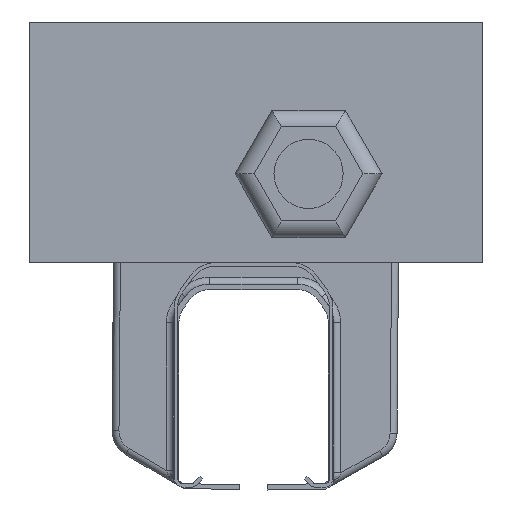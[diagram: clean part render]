
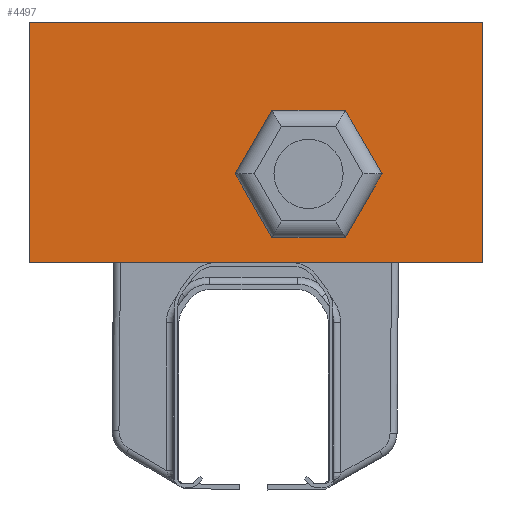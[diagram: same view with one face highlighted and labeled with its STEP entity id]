
A CAD part, front view. The second image highlights one B-rep face of the part: STEP entity #4497.
In plain terms, the highlighted planar face has unit normal (0, -1, 0).
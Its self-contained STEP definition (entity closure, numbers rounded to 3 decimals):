
#332=ORIENTED_EDGE('',*,*,#1296,.T.);
#333=ORIENTED_EDGE('',*,*,#1297,.T.);
#334=ORIENTED_EDGE('',*,*,#1298,.T.);
#335=ORIENTED_EDGE('',*,*,#1299,.T.);
#336=ORIENTED_EDGE('',*,*,#1300,.T.);
#337=ORIENTED_EDGE('',*,*,#1301,.T.);
#338=ORIENTED_EDGE('',*,*,#1280,.F.);
#339=ORIENTED_EDGE('',*,*,#1295,.F.);
#340=ORIENTED_EDGE('',*,*,#1292,.F.);
#341=ORIENTED_EDGE('',*,*,#1287,.F.);
#1280=EDGE_CURVE('',#1764,#1765,#2068,.T.);
#1287=EDGE_CURVE('',#1765,#1771,#2075,.T.);
#1292=EDGE_CURVE('',#1771,#1775,#2080,.T.);
#1295=EDGE_CURVE('',#1775,#1764,#2083,.T.);
#1296=EDGE_CURVE('',#1776,#1777,#2084,.T.);
#1297=EDGE_CURVE('',#1777,#1778,#2085,.T.);
#1298=EDGE_CURVE('',#1778,#1779,#2086,.T.);
#1299=EDGE_CURVE('',#1779,#1780,#2087,.T.);
#1300=EDGE_CURVE('',#1780,#1781,#2088,.T.);
#1301=EDGE_CURVE('',#1781,#1776,#2089,.T.);
#1764=VERTEX_POINT('',#6010);
#1765=VERTEX_POINT('',#6012);
#1771=VERTEX_POINT('',#6026);
#1775=VERTEX_POINT('',#6036);
#1776=VERTEX_POINT('',#6043);
#1777=VERTEX_POINT('',#6044);
#1778=VERTEX_POINT('',#6046);
#1779=VERTEX_POINT('',#6048);
#1780=VERTEX_POINT('',#6050);
#1781=VERTEX_POINT('',#6052);
#2068=LINE('',#6011,#2370);
#2075=LINE('',#6025,#2377);
#2080=LINE('',#6035,#2382);
#2083=LINE('',#6040,#2385);
#2084=LINE('',#6042,#2386);
#2085=LINE('',#6045,#2387);
#2086=LINE('',#6047,#2388);
#2087=LINE('',#6049,#2389);
#2088=LINE('',#6051,#2390);
#2089=LINE('',#6053,#2391);
#2370=VECTOR('',#5032,1000.);
#2377=VECTOR('',#5041,1000.);
#2382=VECTOR('',#5048,1000.);
#2385=VECTOR('',#5053,1000.);
#2386=VECTOR('',#5056,1000.);
#2387=VECTOR('',#5057,1000.);
#2388=VECTOR('',#5058,1000.);
#2389=VECTOR('',#5059,1000.);
#2390=VECTOR('',#5060,1000.);
#2391=VECTOR('',#5061,1000.);
#2675=EDGE_LOOP('',(#332,#333,#334,#335,#336,#337));
#2676=EDGE_LOOP('',(#338,#339,#340,#341));
#2875=FACE_BOUND('',#2675,.T.);
#2876=FACE_BOUND('',#2676,.T.);
#3074=PLANE('',#4693);
#4497=ADVANCED_FACE('',(#2875,#2876),#3074,.F.);
#4693=AXIS2_PLACEMENT_3D('',#6041,#5054,#5055);
#5032=DIRECTION('',(0.,0.,-1.));
#5041=DIRECTION('',(-1.,0.,0.));
#5048=DIRECTION('',(0.,0.,1.));
#5053=DIRECTION('',(1.,0.,0.));
#5054=DIRECTION('',(0.,1.,0.));
#5055=DIRECTION('',(0.,0.,-1.));
#5056=DIRECTION('',(-0.5,0.,0.866));
#5057=DIRECTION('',(0.5,0.,0.866));
#5058=DIRECTION('',(1.,0.,0.));
#5059=DIRECTION('',(0.5,0.,-0.866));
#5060=DIRECTION('',(-0.5,0.,-0.866));
#5061=DIRECTION('',(-1.,0.,0.));
#6010=CARTESIAN_POINT('',(82.877,-232.,131.7));
#6011=CARTESIAN_POINT('',(82.877,-232.,131.7));
#6012=CARTESIAN_POINT('',(82.877,-232.,44.7));
#6025=CARTESIAN_POINT('',(82.877,-232.,44.7));
#6026=CARTESIAN_POINT('',(-81.123,-232.,44.7));
#6035=CARTESIAN_POINT('',(-81.123,-232.,44.7));
#6036=CARTESIAN_POINT('',(-81.123,-232.,131.7));
#6040=CARTESIAN_POINT('',(-81.123,-232.,131.7));
#6041=CARTESIAN_POINT('',(0.877,-232.,88.2));
#6042=CARTESIAN_POINT('',(6.598,-232.,53.801));
#6043=CARTESIAN_POINT('',(6.598,-232.,53.801));
#6044=CARTESIAN_POINT('',(-6.682,-232.,76.801));
#6045=CARTESIAN_POINT('',(-6.682,-232.,76.801));
#6046=CARTESIAN_POINT('',(6.598,-232.,99.801));
#6047=CARTESIAN_POINT('',(6.598,-232.,99.801));
#6048=CARTESIAN_POINT('',(33.156,-232.,99.801));
#6049=CARTESIAN_POINT('',(33.156,-232.,99.801));
#6050=CARTESIAN_POINT('',(46.435,-232.,76.801));
#6051=CARTESIAN_POINT('',(46.435,-232.,76.801));
#6052=CARTESIAN_POINT('',(33.156,-232.,53.801));
#6053=CARTESIAN_POINT('',(33.156,-232.,53.801));
